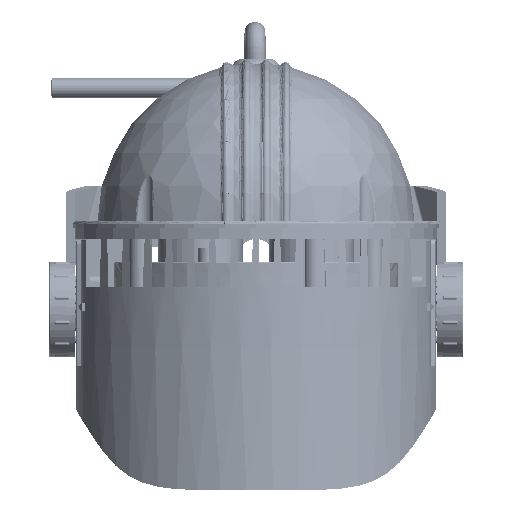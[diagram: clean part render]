
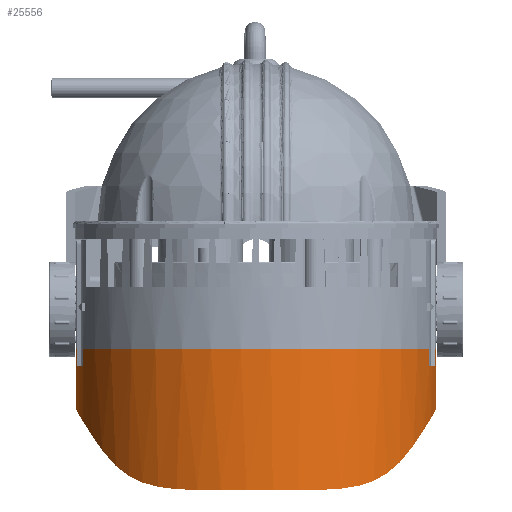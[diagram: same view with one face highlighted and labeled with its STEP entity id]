
A CAD part, left-side view. The second image highlights one B-rep face of the part: STEP entity #25556.
In plain terms, the highlighted cylindrical face has radius 65 mm (diameter 130 mm), a partial arc.
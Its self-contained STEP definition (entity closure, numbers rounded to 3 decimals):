
#23807=CARTESIAN_POINT('',(100.446,-114.081,0.));
#23808=DIRECTION('',(0.,0.,-1.));
#23809=DIRECTION('',(-0.983,0.182,0.));
#23810=AXIS2_PLACEMENT_3D('',#23807,#23808,#23809);
#23821=CARTESIAN_POINT('',(100.446,-114.081,0.));
#23822=DIRECTION('',(0.,0.,-1.));
#23823=DIRECTION('',(-0.949,0.316,0.));
#23824=AXIS2_PLACEMENT_3D('',#23821,#23822,#23823);
#23835=CARTESIAN_POINT('',(100.446,-114.081,0.));
#23836=DIRECTION('',(0.,0.,-1.));
#23837=DIRECTION('',(0.98,0.2,0.));
#23838=AXIS2_PLACEMENT_3D('',#23835,#23836,#23837);
#24014=DIRECTION('',(0.,0.,-1.));
#24015=VECTOR('',#24014,21.67);
#24016=CARTESIAN_POINT('',(164.362,-102.263,0.));
#24017=LINE('',#24016,#24015);
#24056=DIRECTION('',(0.,0.,-1.));
#24057=VECTOR('',#24056,6.);
#24058=CARTESIAN_POINT('',(164.133,-101.081,0.));
#24059=LINE('',#24058,#24057);
#24060=DIRECTION('',(0.,0.,1.));
#24061=VECTOR('',#24060,6.);
#24062=CARTESIAN_POINT('',(162.121,-93.559,-6.));
#24063=LINE('',#24062,#24061);
#24064=DIRECTION('',(0.,0.,1.));
#24065=VECTOR('',#24064,6.);
#24066=CARTESIAN_POINT('',(36.759,-101.081,-6.));
#24067=LINE('',#24066,#24065);
#24068=CARTESIAN_POINT('',(36.529,-102.263,
-21.67));
#24069=CARTESIAN_POINT('',(36.729,-101.18,
-22.036));
#24070=CARTESIAN_POINT('',(37.189,-99.004,
-22.846));
#24071=CARTESIAN_POINT('',(38.058,-95.733,
-24.299));
#24072=CARTESIAN_POINT('',(39.117,-92.453,
-26.011));
#24073=CARTESIAN_POINT('',(40.351,-89.229,
-27.966));
#24074=CARTESIAN_POINT('',(41.822,-85.918,
-30.289));
#24075=CARTESIAN_POINT('',(43.716,-82.251,
-33.213));
#24076=CARTESIAN_POINT('',(46.011,-78.47,
-36.457));
#24077=CARTESIAN_POINT('',(48.36,-75.133,
-39.321));
#24078=CARTESIAN_POINT('',(50.612,-72.301,
-41.629));
#24079=CARTESIAN_POINT('',(52.798,-69.831,
-43.486));
#24080=CARTESIAN_POINT('',(54.966,-67.609,
-44.996));
#24081=CARTESIAN_POINT('',(57.193,-65.529,
-46.25));
#24082=CARTESIAN_POINT('',(59.526,-63.546,
-47.29));
#24083=CARTESIAN_POINT('',(62.01,-61.63,
-48.144));
#24084=CARTESIAN_POINT('',(64.71,-59.751,
-48.832));
#24085=CARTESIAN_POINT('',(67.651,-57.924,
-49.357));
#24086=CARTESIAN_POINT('',(70.78,-56.208,
-49.723));
#24087=CARTESIAN_POINT('',(74.087,-54.626,
-49.954));
#24088=CARTESIAN_POINT('',(77.604,-53.186,
-50.078));
#24089=CARTESIAN_POINT('',(81.339,-51.909,
-50.12));
#24090=CARTESIAN_POINT('',(85.294,-50.826,
-50.109));
#24091=CARTESIAN_POINT('',(89.453,-49.969,
-50.069));
#24092=CARTESIAN_POINT('',(93.781,-49.373,
-50.026));
#24093=CARTESIAN_POINT('',(98.22,-49.068,
-49.999));
#24094=CARTESIAN_POINT('',(102.697,-49.069,
-49.999));
#24095=CARTESIAN_POINT('',(107.136,-49.376,
-50.026));
#24096=CARTESIAN_POINT('',(111.462,-49.973,
-50.069));
#24097=CARTESIAN_POINT('',(115.621,-50.831,
-50.109));
#24098=CARTESIAN_POINT('',(119.575,-51.916,
-50.12));
#24099=CARTESIAN_POINT('',(123.309,-53.193,
-50.077));
#24100=CARTESIAN_POINT('',(126.823,-54.635,
-49.953));
#24101=CARTESIAN_POINT('',(130.13,-56.218,
-49.721));
#24102=CARTESIAN_POINT('',(133.256,-57.933,
-49.355));
#24103=CARTESIAN_POINT('',(136.197,-59.761,
-48.829));
#24104=CARTESIAN_POINT('',(138.897,-61.641,
-48.139));
#24105=CARTESIAN_POINT('',(141.379,-63.557,
-47.285));
#24106=CARTESIAN_POINT('',(143.712,-65.541,
-46.243));
#24107=CARTESIAN_POINT('',(145.939,-67.621,
-44.987));
#24108=CARTESIAN_POINT('',(148.107,-69.846,
-43.475));
#24109=CARTESIAN_POINT('',(150.291,-72.315,
-41.618));
#24110=CARTESIAN_POINT('',(152.546,-75.152,
-39.306));
#24111=CARTESIAN_POINT('',(154.887,-78.482,
-36.447));
#24112=CARTESIAN_POINT('',(157.179,-82.258,
-33.208));
#24113=CARTESIAN_POINT('',(159.073,-85.925,
-30.284));
#24114=CARTESIAN_POINT('',(160.54,-89.227,
-27.967));
#24115=CARTESIAN_POINT('',(161.775,-92.454,
-26.011));
#24116=CARTESIAN_POINT('',(162.834,-95.733,
-24.299));
#24117=CARTESIAN_POINT('',(163.703,-99.004,
-22.846));
#24118=CARTESIAN_POINT('',(164.162,-101.18,
-22.036));
#24119=CARTESIAN_POINT('',(164.362,-102.263,
-21.67));
#24137=CARTESIAN_POINT('',(100.446,-114.081,-6.));
#24138=DIRECTION('',(0.,0.,-1.));
#24139=DIRECTION('',(0.949,0.316,0.));
#24140=AXIS2_PLACEMENT_3D('',#24137,#24138,#24139);
#24155=DIRECTION('',(0.,0.,1.));
#24156=VECTOR('',#24155,6.);
#24157=CARTESIAN_POINT('',(38.771,-93.559,-6.));
#24158=LINE('',#24157,#24156);
#24171=CARTESIAN_POINT('',(100.446,-114.081,-6.));
#24172=DIRECTION('',(0.,0.,-1.));
#24173=DIRECTION('',(-0.98,0.2,0.));
#24174=AXIS2_PLACEMENT_3D('',#24171,#24172,#24173);
#24196=DIRECTION('',(0.,0.,1.));
#24197=VECTOR('',#24196,21.67);
#24198=CARTESIAN_POINT('',(36.529,-102.263,
-21.67));
#24199=LINE('',#24198,#24197);
#24994=CARTESIAN_POINT('',(164.362,-102.263,
0.));
#24996=VERTEX_POINT('',#24994);
#25020=CARTESIAN_POINT('',(36.529,-102.263,0.));
#25021=VERTEX_POINT('',#25020);
#25022=CARTESIAN_POINT('',(36.759,-101.081,0.));
#25023=VERTEX_POINT('',#25022);
#25028=CARTESIAN_POINT('',(38.771,-93.559,0.));
#25029=VERTEX_POINT('',#25028);
#25030=CARTESIAN_POINT('',(162.121,-93.559,0.));
#25031=VERTEX_POINT('',#25030);
#25036=CARTESIAN_POINT('',(164.133,-101.081,0.));
#25037=VERTEX_POINT('',#25036);
#25108=CARTESIAN_POINT('',(164.362,-102.263,
-21.67));
#25109=VERTEX_POINT('',#25108);
#25117=VERTEX_POINT('',#24068);
#25125=CARTESIAN_POINT('',(164.133,-101.081,-6.));
#25126=VERTEX_POINT('',#25125);
#25127=CARTESIAN_POINT('',(162.121,-93.559,-6.));
#25128=VERTEX_POINT('',#25127);
#25129=CARTESIAN_POINT('',(38.771,-93.559,-6.));
#25130=VERTEX_POINT('',#25129);
#25131=CARTESIAN_POINT('',(36.759,-101.081,-6.));
#25132=VERTEX_POINT('',#25131);
#25530=CARTESIAN_POINT('',(100.446,-114.081,0.));
#25531=DIRECTION('',(0.,0.,1.));
#25532=DIRECTION('',(1.,0.,0.));
#25533=AXIS2_PLACEMENT_3D('',#25530,#25531,#25532);
#25534=CYLINDRICAL_SURFACE('',#25533,65.);
#25535=ORIENTED_EDGE('',*,*,#25468,.F.);
#25536=ORIENTED_EDGE('',*,*,#25365,.F.);
#25538=ORIENTED_EDGE('',*,*,#25537,.T.);
#25540=ORIENTED_EDGE('',*,*,#25539,.F.);
#25542=ORIENTED_EDGE('',*,*,#25541,.T.);
#25543=ORIENTED_EDGE('',*,*,#25357,.F.);
#25545=ORIENTED_EDGE('',*,*,#25544,.F.);
#25547=ORIENTED_EDGE('',*,*,#25546,.F.);
#25549=ORIENTED_EDGE('',*,*,#25548,.T.);
#25550=ORIENTED_EDGE('',*,*,#25349,.F.);
#25552=ORIENTED_EDGE('',*,*,#25551,.F.);
#25553=ORIENTED_EDGE('',*,*,#25510,.T.);
#25554=EDGE_LOOP('',(#25535,#25536,#25538,#25540,#25542,#25543,#25545,#25547,
#25549,#25550,#25552,#25553));
#25555=FACE_OUTER_BOUND('',#25554,.F.);
#25556=ADVANCED_FACE('',(#25555),#25534,.T.);
#23811=CIRCLE('',#23810,65.);
#23825=CIRCLE('',#23824,65.);
#23839=CIRCLE('',#23838,65.);
#24120=B_SPLINE_CURVE_WITH_KNOTS('',3,(#24068,#24069,#24070,#24071,#24072,
#24073,#24074,#24075,#24076,#24077,#24078,#24079,#24080,#24081,#24082,#24083,
#24084,#24085,#24086,#24087,#24088,#24089,#24090,#24091,#24092,#24093,#24094,
#24095,#24096,#24097,#24098,#24099,#24100,#24101,#24102,#24103,#24104,#24105,
#24106,#24107,#24108,#24109,#24110,#24111,#24112,#24113,#24114,#24115,#24116,
#24117,#24118,#24119),.UNSPECIFIED.,.F.,.F.,(4,1,1,1,1,1,1,1,1,1,1,1,1,1,1,1,1,
1,1,1,1,1,1,1,1,1,1,1,1,1,1,1,1,1,1,1,1,1,1,1,1,1,1,1,1,1,1,1,1,4),(0.,
0.02,0.041,0.061,0.082,
0.102,0.122,0.143,0.163,
0.184,0.204,0.224,0.245,
0.265,0.286,0.306,0.327,
0.347,0.367,0.388,0.408,
0.429,0.449,0.469,0.49,
0.51,0.531,0.551,0.571,
0.592,0.612,0.633,0.653,
0.673,0.694,0.714,0.735,
0.755,0.776,0.796,0.816,
0.837,0.857,0.878,0.898,
0.918,0.939,0.959,0.98,1.),
.UNSPECIFIED.);
#24141=CIRCLE('',#24140,65.);
#24175=CIRCLE('',#24174,65.);
#25349=EDGE_CURVE('',#25021,#25023,#23811,.T.);
#25357=EDGE_CURVE('',#25029,#25031,#23825,.T.);
#25365=EDGE_CURVE('',#25037,#24996,#23839,.T.);
#25468=EDGE_CURVE('',#24996,#25109,#24017,.T.);
#25510=EDGE_CURVE('',#25117,#25109,#24120,.T.);
#25537=EDGE_CURVE('',#25037,#25126,#24059,.T.);
#25539=EDGE_CURVE('',#25128,#25126,#24141,.T.);
#25541=EDGE_CURVE('',#25128,#25031,#24063,.T.);
#25544=EDGE_CURVE('',#25130,#25029,#24158,.T.);
#25546=EDGE_CURVE('',#25132,#25130,#24175,.T.);
#25548=EDGE_CURVE('',#25132,#25023,#24067,.T.);
#25551=EDGE_CURVE('',#25117,#25021,#24199,.T.);
